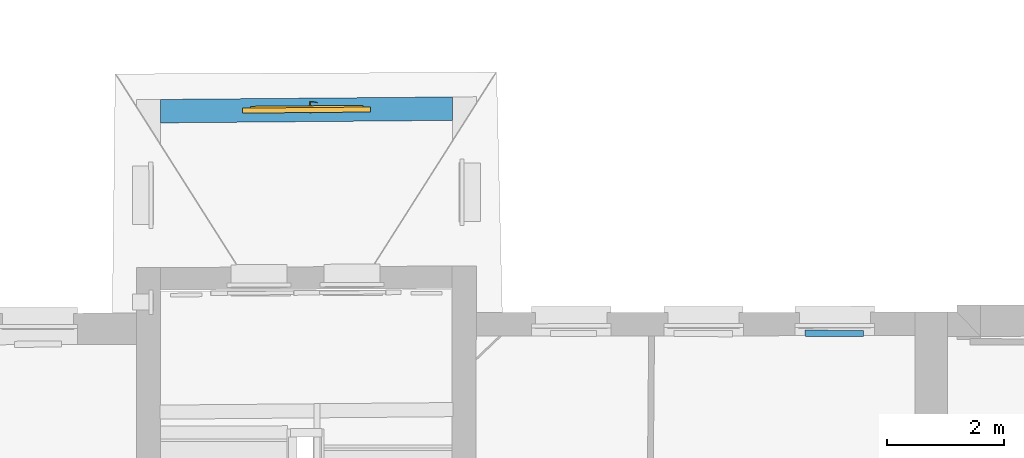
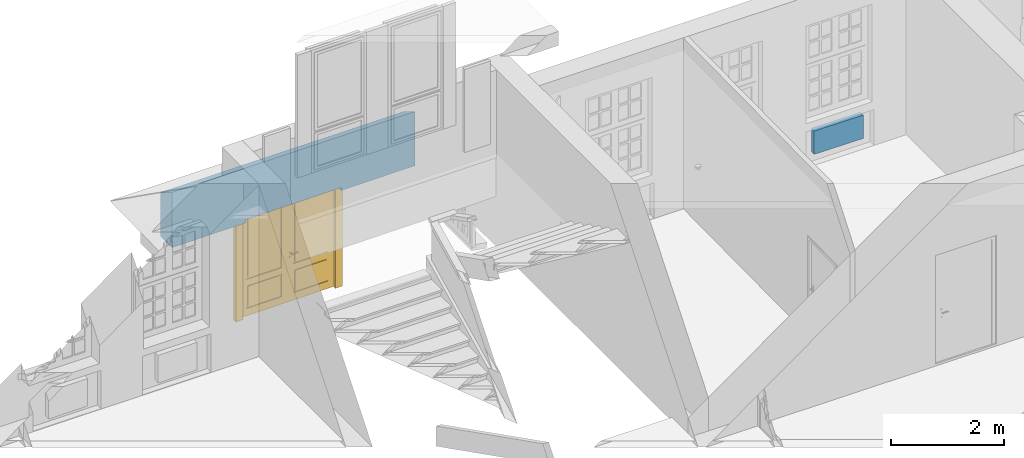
# One storey, part 38 of 158: 2 walls, 1 door, 1 opening.
"""IFC2X3 building model written with IfcOpenShell, lengths in metres."""

from ifc_helpers import new_model, entity, si_unit, converted_unit, derived_unit, money_unit, direction, frame, origin_with_axes, origin_2d_with_axis, place, context, subcontext, project, spatial, polyline, rectangle, outline, extrude, boolean, open_shell, faceted_brep, surface_model, source, transform, mapped, material, layer, layer_set, layer_usage, type_object, element, fill, save


model = new_model("IFC2X3")

# Units and contexts
model_context = context("Model", 3, precision=1e-05, world=origin_with_axes(), true_north=direction((0.0, 1.0)))
body_context = subcontext(model_context, "Body", "Model", "MODEL_VIEW")
ifc_project = project(units=[si_unit("LENGTHUNIT", "METRE"), si_unit("AREAUNIT", "SQUARE_METRE"), si_unit("VOLUMEUNIT", "CUBIC_METRE"), converted_unit("PLANEANGLEUNIT", "DEGREE", entity("IfcPlaneAngleMeasure", 0.0174532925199), si_unit("PLANEANGLEUNIT", "RADIAN"), dimensions=[0, 0, 0, 0, 0, 0, 0]), money_unit("EUR"), converted_unit("TIMEUNIT", "Year", entity("IfcTimeMeasure", 31556926.0), si_unit("TIMEUNIT", "SECOND"), dimensions=[0, 0, 1, 0, 0, 0, 0]), si_unit("MASSUNIT", "GRAM", prefix="KILO"), si_unit("THERMODYNAMICTEMPERATUREUNIT", "DEGREE_CELSIUS"), si_unit("LUMINOUSINTENSITYUNIT", "LUMEN"), si_unit("ENERGYUNIT", "JOULE", prefix="MEGA"), derived_unit("THERMALCONDUCTANCEUNIT", [(si_unit("POWERUNIT", "WATT"), 1), (si_unit("LENGTHUNIT", "METRE"), -1), (si_unit("THERMODYNAMICTEMPERATUREUNIT", "KELVIN"), -1)]), derived_unit("SPECIFICHEATCAPACITYUNIT", [(si_unit("ENERGYUNIT", "JOULE"), 1), (si_unit("MASSUNIT", "GRAM", prefix="KILO"), -1), (si_unit("THERMODYNAMICTEMPERATUREUNIT", "KELVIN"), -1)]), derived_unit("MASSDENSITYUNIT", [(si_unit("MASSUNIT", "GRAM", prefix="KILO"), 1), (si_unit("VOLUMEUNIT", "CUBIC_METRE"), -1)])], contexts=[model_context])

# Site, building, storey
site_placement = place(None, origin_with_axes())
site = spatial("IfcSite", under=ifc_project, at=site_placement, Name="Gelände", CompositionType="ELEMENT")
building_placement = place(site_placement, origin_with_axes())
building = spatial("IfcBuilding", under=site, at=building_placement, Name="Gebäude", CompositionType="ELEMENT")
storey_placement = place(building_placement, origin_with_axes())
storey = spatial("IfcBuildingStorey", under=building, at=storey_placement, Name="ERDGESCHOSS", CompositionType="ELEMENT", Elevation=0.0)

# Wall, opening, door
ifc_material_1 = material(Name="05_ALLGEMEIN - TRAGENDE BAUTEILE")
wall_type_1 = type_object("IfcWallType", Name="05_ALLGEMEIN - TRAGENDE BAUTEILE 400", PredefinedType="ELEMENTEDWALL")
wall_1_placement = place(storey_placement, frame((-4.46072378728, 29.7419939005, -0.21), z_axis=(0.0, 0.0, 1.0), x_axis=(-0.999963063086, -0.00859490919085, 0.0)))
wall_1 = element("IfcWall", 1, at=wall_1_placement, inside=storey, type_object=wall_type_1, material=ifc_material_1, Name="Wand-029", ObjectType="ELEMENTEDWALL", context=body_context, shape_type="CSG", body=[
    boolean("DIFFERENCE", extrude(outline(polyline([(0.0, 0.0), (5.79535307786, 0.0), (5.79535307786, 0.4), (0.0, 0.4), (0.0, 0.0)])), origin_with_axes(), (0.0, 0.0, 1.0), 3.15), faceted_brep([(5.38193782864, 0.0, 0.949723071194), (5.38193782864, 0.0, 0.0), (5.79535307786, 0.0, 0.0), (5.79535307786, 0.0, 3.15), (0.0, 0.0, 3.15), (0.0, 0.0, 0.0), (0.410016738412, 0.0, 0.0), (0.410016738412, 0.0, 0.924372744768), (5.38533826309, 0.4, 1.19053185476), (5.38533826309, 0.4, 0.0), (5.79535307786, 0.4, 0.0), (5.79535307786, 0.4, 3.15), (0.0, 0.4, 3.15), (0.0, 0.4, 0.0), (0.413631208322, 0.4, 0.0), (0.413631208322, 0.4, 1.16518261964)], [[[0, 1, 2, 3, 4, 5, 6, 7]], [[8, 9, 1, 0]], [[1, 9, 10, 2]], [[3, 2, 10, 11]], [[12, 4, 3, 11]], [[12, 13, 5, 4]], [[14, 6, 5, 13]], [[7, 6, 14, 15]], [[0, 7, 15, 8]], [[15, 14, 13, 12, 11, 10, 9, 8]]])),
])
opening_placement = place(wall_1_placement, frame((2.89525343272, 0.0, -2.19), z_axis=(0.0, 0.0, 1.0), x_axis=(1.0, 0.0, 0.0)))
opening = element("IfcOpeningElement", 2, at=opening_placement, cuts=wall_1, Name="Tür-023", context=body_context, shape_type="SweptSolid", body=[
    extrude(rectangle(XDim=2.17837008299, YDim=2.38809052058, at=origin_2d_with_axis()), frame((0.0, 0.16, 1.19404526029), z_axis=(0.0, 1.0, 0.0), x_axis=(-1.0, 0.0, 0.0)), (0.0, 0.0, -1.0), 0.56),
    extrude(rectangle(XDim=1.95837008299, YDim=2.25809052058, at=origin_2d_with_axis()), frame((0.0, 0.245, 1.12904526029), z_axis=(0.0, -1.0, 0.0), x_axis=(-1.0, 0.0, 0.0)), (0.0, 0.0, -1.0), 0.555),
    extrude(rectangle(XDim=2.17837008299, YDim=2.38809052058, at=origin_2d_with_axis()), frame((0.0, 0.16, 1.19404526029), z_axis=(0.0, 1.0, 0.0), x_axis=(-1.0, 0.0, 0.0)), (0.0, 0.0, 1.0), 0.085),
])
door_style = type_object("IfcDoorStyle", Name="Blockrahmentür 2-Fl 25", ConstructionType="NOTDEFINED", OperationType="DOUBLE_DOOR_SINGLE_SWING", ParameterTakesPrecedence=False, Sizeable=False)
shared_shape = source(origin_with_axes(), body_context, "Body", "SurfaceModel", [
    faceted_brep([(1.0891850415, -0.085, 0.0), (1.0891850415, -0.048, 0.0), (1.0891850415, -0.048, 2.38809052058), (1.0891850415, -0.085, 2.38809052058), (0.944185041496, -0.085, 0.0), (0.944185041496, -0.048, 0.0), (0.944185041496, -0.048, 2.24309052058), (0.1151, -0.048, 2.24309052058), (0.0001, -0.048, 2.24309052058), (-0.944185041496, -0.048, 2.24309052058), (-0.944185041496, -0.048, 0.0), (-1.0891850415, -0.048, 0.0), (-1.0891850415, -0.048, 2.38809052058), (-1.0891850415, -0.085, 2.38809052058), (-1.0891850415, -0.085, 0.0), (-0.944185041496, -0.085, 0.0), (-0.944185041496, -0.085, 2.24309052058), (0.0001, -0.085, 2.24309052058), (0.1151, -0.085, 2.24309052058), (0.944185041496, -0.085, 2.24309052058)], [[[0, 1, 2, 3]], [[4, 5, 1, 0]], [[1, 5, 6, 7, 8, 9, 10, 11, 12, 2]], [[3, 2, 12, 13]], [[0, 3, 13, 14, 15, 16, 17, 18, 19, 4]], [[19, 6, 5, 4]], [[18, 7, 6, 19]], [[17, 8, 7, 18]], [[16, 9, 8, 17]], [[15, 10, 9, 16]], [[14, 11, 10, 15]], [[13, 12, 11, 14]]]),
    faceted_brep([(1.0891850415, -0.048, 0.0), (1.0891850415, 0.0, 0.0), (1.0891850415, 0.0, 2.38809052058), (1.0891850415, -0.048, 2.38809052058), (0.959185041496, -0.048, 0.0), (0.959185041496, 0.0, 0.0), (0.959185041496, 0.0, 2.25809052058), (0.1001, 0.0, 2.25809052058), (0.0151, 0.0, 2.25809052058), (-0.959185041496, 0.0, 2.25809052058), (-0.959185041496, 0.0, 0.0), (-1.0891850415, 0.0, 0.0), (-1.0891850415, 0.0, 2.38809052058), (-1.0891850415, -0.048, 2.38809052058), (-1.0891850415, -0.048, 0.0), (-0.959185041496, -0.048, 0.0), (-0.959185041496, -0.048, 2.25809052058), (0.0151, -0.048, 2.25809052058), (0.1001, -0.048, 2.25809052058), (0.959185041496, -0.048, 2.25809052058)], [[[0, 1, 2, 3]], [[4, 5, 1, 0]], [[1, 5, 6, 7, 8, 9, 10, 11, 12, 2]], [[3, 2, 12, 13]], [[0, 3, 13, 14, 15, 16, 17, 18, 19, 4]], [[19, 6, 5, 4]], [[18, 7, 6, 19]], [[17, 8, 7, 18]], [[16, 9, 8, 17]], [[15, 10, 9, 16]], [[14, 11, 10, 15]], [[13, 12, 11, 14]]]),
    faceted_brep([(0.0005, 0.03, 0.0), (0.959185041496, 0.03, 0.0), (0.959185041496, -0.018, 0.0), (0.0005, -0.018, 0.0), (0.0005, 0.03, 2.25809052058), (0.959185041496, 0.03, 2.25809052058), (0.1205, 0.03, 0.16), (0.839185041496, 0.03, 0.16), (0.839185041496, 0.03, 0.665), (0.1205, 0.03, 0.665), (0.1205, 0.03, 0.785), (0.839185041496, 0.03, 0.785), (0.839185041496, 0.03, 2.13809052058), (0.1205, 0.03, 2.13809052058), (0.959185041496, -0.018, 2.25809052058), (0.0005, -0.018, 2.25809052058), (0.1205, -0.018, 0.16), (0.1205, -0.018, 0.665), (0.839185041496, -0.018, 0.665), (0.839185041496, -0.018, 0.16), (0.1205, -0.018, 0.785), (0.1205, -0.018, 2.13809052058), (0.839185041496, -0.018, 2.13809052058), (0.839185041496, -0.018, 0.785)], [[[0, 1, 2, 3]], [[0, 4, 5, 1], [6, 7, 8, 9], [10, 11, 12, 13]], [[1, 5, 14, 2]], [[3, 2, 14, 15], [16, 17, 18, 19], [20, 21, 22, 23]], [[4, 0, 3, 15]], [[5, 4, 15, 14]], [[7, 6, 16, 19]], [[8, 7, 19, 18]], [[9, 8, 18, 17]], [[6, 9, 17, 16]], [[11, 10, 20, 23]], [[12, 11, 23, 22]], [[13, 12, 22, 21]], [[10, 13, 21, 20]]]),
    faceted_brep([(0.1555, 0.03, 0.195), (0.804185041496, 0.03, 0.195), (0.804185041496, -0.018, 0.195), (0.1555, -0.018, 0.195), (0.1555, 0.03, 0.63), (0.804185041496, 0.03, 0.63), (0.804185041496, -0.018, 0.63), (0.1555, -0.018, 0.63)], [[[0, 1, 2, 3]], [[0, 4, 5, 1]], [[1, 5, 6, 2]], [[3, 2, 6, 7]], [[4, 0, 3, 7]], [[5, 4, 7, 6]]]),
    faceted_brep([(0.1555, 0.03, 0.82), (0.804185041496, 0.03, 0.82), (0.804185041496, -0.018, 0.82), (0.1555, -0.018, 0.82), (0.1555, 0.03, 2.10309052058), (0.804185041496, 0.03, 2.10309052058), (0.804185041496, -0.018, 2.10309052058), (0.1555, -0.018, 2.10309052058)], [[[0, 1, 2, 3]], [[0, 4, 5, 1]], [[1, 5, 6, 2]], [[3, 2, 6, 7]], [[4, 0, 3, 7]], [[5, 4, 7, 6]]]),
    faceted_brep([(0.1205, 0.0175, 0.16), (0.839185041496, 0.0175, 0.16), (0.839185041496, -0.0055, 0.16), (0.1205, -0.0055, 0.16), (0.1205, 0.0175, 0.665), (0.839185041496, 0.0175, 0.665), (0.1555, 0.0175, 0.195), (0.804185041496, 0.0175, 0.195), (0.804185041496, 0.0175, 0.63), (0.1555, 0.0175, 0.63), (0.839185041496, -0.0055, 0.665), (0.1205, -0.0055, 0.665), (0.1555, -0.0055, 0.195), (0.1555, -0.0055, 0.63), (0.804185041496, -0.0055, 0.63), (0.804185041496, -0.0055, 0.195)], [[[0, 1, 2, 3]], [[0, 4, 5, 1], [6, 7, 8, 9]], [[1, 5, 10, 2]], [[3, 2, 10, 11], [12, 13, 14, 15]], [[4, 0, 3, 11]], [[5, 4, 11, 10]], [[7, 6, 12, 15]], [[8, 7, 15, 14]], [[9, 8, 14, 13]], [[6, 9, 13, 12]]]),
    faceted_brep([(0.1205, 0.0175, 0.785), (0.839185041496, 0.0175, 0.785), (0.839185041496, -0.0055, 0.785), (0.1205, -0.0055, 0.785), (0.1205, 0.0175, 2.13809052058), (0.839185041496, 0.0175, 2.13809052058), (0.1555, 0.0175, 0.82), (0.804185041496, 0.0175, 0.82), (0.804185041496, 0.0175, 2.10309052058), (0.1555, 0.0175, 2.10309052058), (0.839185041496, -0.0055, 2.13809052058), (0.1205, -0.0055, 2.13809052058), (0.1555, -0.0055, 0.82), (0.1555, -0.0055, 2.10309052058), (0.804185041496, -0.0055, 2.10309052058), (0.804185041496, -0.0055, 0.82)], [[[0, 1, 2, 3]], [[0, 4, 5, 1], [6, 7, 8, 9]], [[1, 5, 10, 2]], [[3, 2, 10, 11], [12, 13, 14, 15]], [[4, 0, 3, 11]], [[5, 4, 11, 10]], [[7, 6, 12, 15]], [[8, 7, 15, 14]], [[9, 8, 14, 13]], [[6, 9, 13, 12]]]),
    faceted_brep([(0.032, -0.018, 1.11), (0.032, -0.021, 1.11), (0.089, -0.021, 1.11), (0.089, -0.018, 1.11), (0.032, -0.018, 0.92), (0.032, -0.021, 0.92), (0.089, -0.021, 0.92), (0.089, -0.018, 0.92)], [[[0, 1, 2, 3]], [[4, 5, 1, 0]], [[1, 5, 6, 2]], [[3, 2, 6, 7]], [[0, 3, 7, 4]], [[7, 6, 5, 4]]]),
    faceted_brep([(0.0605, -0.082, 1.04), (0.0605, -0.089, 1.04), (0.0555, -0.089, 1.04133974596), (0.0555, -0.082, 1.04133974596), (0.0855, -0.082, 1.04), (0.0855, -0.089, 1.04), (0.0855, -0.089, 1.06), (0.0605, -0.089, 1.06), (0.0555, -0.089, 1.05866025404), (0.0518397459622, -0.089, 1.055), (0.0505, -0.089, 1.05), (0.0518397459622, -0.089, 1.045), (0.0518397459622, -0.082, 1.045), (0.0505, -0.082, 1.05), (0.0518397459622, -0.082, 1.055), (0.0555, -0.082, 1.05866025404), (0.0605, -0.082, 1.06), (0.0855, -0.082, 1.06)], [[[0, 1, 2, 3]], [[4, 5, 1, 0]], [[1, 5, 6, 7, 8, 9, 10, 11, 2]], [[3, 2, 11, 12]], [[0, 3, 12, 13, 14, 15, 16, 17, 4]], [[17, 6, 5, 4]], [[16, 7, 6, 17]], [[15, 8, 7, 16]], [[14, 9, 8, 15]], [[13, 10, 9, 14]], [[12, 11, 10, 13]]]),
    surface_model("IfcShellBasedSurfaceModel", [(0.0855, -0.082, 1.06), (0.0989039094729, -0.089, 1.05960730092), (0.0985982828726, -0.082, 1.05960730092), (0.0855, -0.089, 1.06), (0.125609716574, -0.0866635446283, 1.05882190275), (0.0985982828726, -0.082, 1.04039269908), (0.0855, -0.082, 1.04), (0.0855, -0.089, 1.04), (0.0989039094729, -0.089, 1.04039269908), (0.125609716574, -0.0866635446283, 1.04117809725), (0.124695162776, -0.079716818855, 1.05882190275), (0.124695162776, -0.079716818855, 1.04117809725), (0.152010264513, -0.0820084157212, 1.04196349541), (0.152010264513, -0.0820084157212, 1.05803650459), (0.150493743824, -0.0751678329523, 1.05803650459), (0.150493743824, -0.0751678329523, 1.04196349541), (0.17790462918, -0.0750700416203, 1.04274889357), (0.17790462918, -0.0750700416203, 1.05725110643), (0.175797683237, -0.0683876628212, 1.05725110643), (0.175797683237, -0.0683876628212, 1.04274889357), (0.185961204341, -0.0721376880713, 1.043), (0.185961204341, -0.0721376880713, 1.057), (0.183670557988, -0.0655221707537, 1.057), (0.183670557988, -0.0655221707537, 1.043)], [open_shell([[[0, 1, 2]], [[0, 3, 1]], [[2, 1, 4]], [[0, 2, 5, 6]], [[3, 7, 8, 1]], [[1, 8, 9, 4]], [[2, 4, 10]], [[2, 10, 11, 5]], [[5, 7, 6]], [[5, 8, 7]], [[11, 9, 8]], [[4, 9, 12, 13]], [[10, 4, 13]], [[10, 14, 15, 11]], [[11, 8, 5]], [[15, 9, 11]], [[15, 12, 9]], [[13, 12, 16, 17]], [[10, 13, 14]], [[14, 18, 19, 15]], [[19, 12, 15]], [[19, 16, 12]], [[17, 16, 20, 21]], [[14, 13, 17]], [[14, 17, 18]], [[18, 22, 23, 19]], [[23, 16, 19]], [[23, 20, 16]], [[22, 21, 20, 23]], [[18, 17, 21]], [[18, 21, 22]]])]),
    faceted_brep([(0.0708923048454, -0.031, 1.044), (0.0717583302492, -0.021, 1.0435), (0.0735, -0.021, 1.05), (0.0725, -0.031, 1.05), (0.0665, -0.031, 1.03960769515), (0.067, -0.021, 1.03874166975), (0.0605, -0.021, 1.037), (0.054, -0.021, 1.03874166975), (0.0492416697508, -0.021, 1.0435), (0.0475, -0.021, 1.05), (0.0492416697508, -0.021, 1.0565), (0.054, -0.021, 1.06125833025), (0.0605, -0.021, 1.063), (0.067, -0.021, 1.06125833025), (0.0717583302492, -0.021, 1.0565), (0.0708923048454, -0.031, 1.056), (0.0665, -0.031, 1.06039230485), (0.0605, -0.031, 1.062), (0.0545, -0.031, 1.06039230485), (0.0501076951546, -0.031, 1.056), (0.0485, -0.031, 1.05), (0.0501076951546, -0.031, 1.044), (0.0545, -0.031, 1.03960769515), (0.0605, -0.031, 1.038)], [[[0, 1, 2, 3]], [[4, 5, 1, 0]], [[2, 1, 5, 6, 7, 8, 9, 10, 11, 12, 13, 14]], [[3, 2, 14, 15]], [[3, 15, 16, 17, 18, 19, 20, 21, 22, 23, 4, 0]], [[23, 6, 5, 4]], [[22, 7, 6, 23]], [[21, 8, 7, 22]], [[20, 9, 8, 21]], [[19, 10, 9, 20]], [[18, 11, 10, 19]], [[17, 12, 11, 18]], [[16, 13, 12, 17]], [[15, 14, 13, 16]]]),
    faceted_brep([(0.0778205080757, -0.025, 0.945), (0.0795525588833, -0.021, 0.944), (0.0825, -0.021, 0.955), (0.0805, -0.025, 0.955), (0.0705, -0.025, 0.937679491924), (0.0715, -0.021, 0.935947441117), (0.0605, -0.021, 0.933), (0.0495, -0.021, 0.935947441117), (0.0414474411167, -0.021, 0.944), (0.0385, -0.021, 0.955), (0.0414474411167, -0.021, 0.966), (0.0495, -0.021, 0.974052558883), (0.0605, -0.021, 0.977), (0.0715, -0.021, 0.974052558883), (0.0795525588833, -0.021, 0.966), (0.0778205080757, -0.025, 0.965), (0.0705, -0.025, 0.972320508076), (0.0605, -0.025, 0.975), (0.0505, -0.025, 0.972320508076), (0.0431794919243, -0.025, 0.965), (0.0405, -0.025, 0.955), (0.0431794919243, -0.025, 0.945), (0.0505, -0.025, 0.937679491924), (0.0605, -0.025, 0.935)], [[[0, 1, 2, 3]], [[4, 5, 1, 0]], [[2, 1, 5, 6, 7, 8, 9, 10, 11, 12, 13, 14]], [[3, 2, 14, 15]], [[3, 15, 16, 17, 18, 19, 20, 21, 22, 23, 4, 0]], [[23, 6, 5, 4]], [[22, 7, 6, 23]], [[21, 8, 7, 22]], [[20, 9, 8, 21]], [[19, 10, 9, 20]], [[18, 11, 10, 19]], [[17, 12, 11, 18]], [[16, 13, 12, 17]], [[15, 14, 13, 16]]]),
    faceted_brep([(0.0654497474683, -0.027, 0.959050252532), (0.0661568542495, -0.025, 0.958343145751), (0.0685, -0.025, 0.964), (0.0675, -0.027, 0.964), (0.0605, -0.027, 0.957), (0.0605, -0.025, 0.956), (0.0548431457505, -0.025, 0.958343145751), (0.0525, -0.025, 0.964), (0.0548431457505, -0.025, 0.969656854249), (0.0605, -0.025, 0.972), (0.0661568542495, -0.025, 0.969656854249), (0.0654497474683, -0.027, 0.968949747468), (0.0605, -0.027, 0.971), (0.0555502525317, -0.027, 0.968949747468), (0.0535, -0.027, 0.964), (0.0555502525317, -0.027, 0.959050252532)], [[[0, 1, 2, 3]], [[4, 5, 1, 0]], [[2, 1, 5, 6, 7, 8, 9, 10]], [[3, 2, 10, 11]], [[3, 11, 12, 13, 14, 15, 4, 0]], [[15, 6, 5, 4]], [[14, 7, 6, 15]], [[13, 8, 7, 14]], [[12, 9, 8, 13]], [[11, 10, 9, 12]]]),
    faceted_brep([(0.0605, -0.031, 1.06), (0.0605, -0.082, 1.06), (0.0655, -0.082, 1.05866025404), (0.0655, -0.031, 1.05866025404), (0.0555, -0.031, 1.05866025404), (0.0555, -0.082, 1.05866025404), (0.0518397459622, -0.082, 1.055), (0.0505, -0.082, 1.05), (0.0518397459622, -0.082, 1.045), (0.0555, -0.082, 1.04133974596), (0.0605, -0.082, 1.04), (0.0655, -0.082, 1.04133974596), (0.0691602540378, -0.082, 1.045), (0.0705, -0.082, 1.05), (0.0691602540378, -0.082, 1.055), (0.0691602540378, -0.031, 1.055), (0.0705, -0.031, 1.05), (0.0691602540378, -0.031, 1.045), (0.0655, -0.031, 1.04133974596), (0.0605, -0.031, 1.04), (0.0555, -0.031, 1.04133974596), (0.0518397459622, -0.031, 1.045), (0.0505, -0.031, 1.05), (0.0518397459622, -0.031, 1.055)], [[[0, 1, 2, 3]], [[4, 5, 1, 0]], [[1, 5, 6, 7, 8, 9, 10, 11, 12, 13, 14, 2]], [[3, 2, 14, 15]], [[0, 3, 15, 16, 17, 18, 19, 20, 21, 22, 23, 4]], [[23, 6, 5, 4]], [[22, 7, 6, 23]], [[21, 8, 7, 22]], [[20, 9, 8, 21]], [[19, 10, 9, 20]], [[18, 11, 10, 19]], [[17, 12, 11, 18]], [[16, 13, 12, 17]], [[15, 14, 13, 16]]]),
    faceted_brep([(0.032, 0.03, 1.11), (0.089, 0.03, 1.11), (0.089, 0.033, 1.11), (0.032, 0.033, 1.11), (0.032, 0.03, 0.92), (0.089, 0.03, 0.92), (0.089, 0.033, 0.92), (0.032, 0.033, 0.92)], [[[0, 1, 2, 3]], [[0, 4, 5, 1]], [[1, 5, 6, 2]], [[3, 2, 6, 7]], [[4, 0, 3, 7]], [[5, 4, 7, 6]]]),
    faceted_brep([(0.0605, 0.094, 1.04), (0.0555, 0.094, 1.04133974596), (0.0555, 0.101, 1.04133974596), (0.0605, 0.101, 1.04), (0.0855, 0.094, 1.04), (0.0855, 0.094, 1.06), (0.0605, 0.094, 1.06), (0.0555, 0.094, 1.05866025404), (0.0518397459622, 0.094, 1.055), (0.0505, 0.094, 1.05), (0.0518397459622, 0.094, 1.045), (0.0518397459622, 0.101, 1.045), (0.0505, 0.101, 1.05), (0.0518397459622, 0.101, 1.055), (0.0555, 0.101, 1.05866025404), (0.0605, 0.101, 1.06), (0.0855, 0.101, 1.06), (0.0855, 0.101, 1.04)], [[[0, 1, 2, 3]], [[0, 4, 5, 6, 7, 8, 9, 10, 1]], [[1, 10, 11, 2]], [[3, 2, 11, 12, 13, 14, 15, 16, 17]], [[4, 0, 3, 17]], [[5, 4, 17, 16]], [[6, 5, 16, 15]], [[7, 6, 15, 14]], [[8, 7, 14, 13]], [[9, 8, 13, 12]], [[10, 9, 12, 11]]]),
    surface_model("IfcShellBasedSurfaceModel", [(0.0855, 0.094, 1.06), (0.0985982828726, 0.094, 1.05960730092), (0.0989039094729, 0.101, 1.05960730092), (0.0855, 0.094, 1.04), (0.0985982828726, 0.094, 1.04039269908), (0.125609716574, 0.0986635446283, 1.05882190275), (0.0855, 0.101, 1.06), (0.0855, 0.101, 1.04), (0.124695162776, 0.091716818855, 1.04117809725), (0.124695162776, 0.091716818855, 1.05882190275), (0.125609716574, 0.0986635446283, 1.04117809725), (0.0989039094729, 0.101, 1.04039269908), (0.150493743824, 0.0871678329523, 1.04196349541), (0.150493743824, 0.0871678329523, 1.05803650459), (0.152010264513, 0.0940084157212, 1.05803650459), (0.152010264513, 0.0940084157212, 1.04196349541), (0.175797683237, 0.0803876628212, 1.04274889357), (0.175797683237, 0.0803876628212, 1.05725110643), (0.17790462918, 0.0870700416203, 1.05725110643), (0.17790462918, 0.0870700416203, 1.04274889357), (0.183670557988, 0.0775221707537, 1.043), (0.183670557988, 0.0775221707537, 1.057), (0.185961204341, 0.0841376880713, 1.057), (0.185961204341, 0.0841376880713, 1.043)], [open_shell([[[0, 1, 2]], [[0, 3, 4, 1]], [[1, 5, 2]], [[0, 2, 6]], [[4, 3, 7]], [[1, 4, 8, 9]], [[1, 9, 5]], [[2, 5, 10, 11]], [[6, 2, 11, 7]], [[4, 7, 11]], [[8, 4, 11]], [[9, 8, 12, 13]], [[9, 14, 5]], [[5, 14, 15, 10]], [[8, 11, 10]], [[12, 8, 10]], [[13, 12, 16, 17]], [[9, 13, 14]], [[14, 18, 19, 15]], [[12, 10, 15]], [[16, 12, 15]], [[17, 16, 20, 21]], [[13, 17, 18]], [[13, 18, 14]], [[18, 22, 23, 19]], [[16, 15, 19]], [[20, 16, 19]], [[21, 20, 23, 22]], [[17, 21, 22]], [[17, 22, 18]], [[20, 19, 23]]])]),
    faceted_brep([(0.0708923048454, 0.043, 1.044), (0.0725, 0.043, 1.05), (0.0735, 0.033, 1.05), (0.0717583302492, 0.033, 1.0435), (0.0665, 0.043, 1.03960769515), (0.0605, 0.043, 1.038), (0.0545, 0.043, 1.03960769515), (0.0501076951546, 0.043, 1.044), (0.0485, 0.043, 1.05), (0.0501076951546, 0.043, 1.056), (0.0545, 0.043, 1.06039230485), (0.0605, 0.043, 1.062), (0.0665, 0.043, 1.06039230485), (0.0708923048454, 0.043, 1.056), (0.0717583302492, 0.033, 1.0565), (0.067, 0.033, 1.06125833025), (0.0605, 0.033, 1.063), (0.054, 0.033, 1.06125833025), (0.0492416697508, 0.033, 1.0565), (0.0475, 0.033, 1.05), (0.0492416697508, 0.033, 1.0435), (0.054, 0.033, 1.03874166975), (0.0605, 0.033, 1.037), (0.067, 0.033, 1.03874166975)], [[[0, 1, 2, 3]], [[1, 0, 4, 5, 6, 7, 8, 9, 10, 11, 12, 13]], [[1, 13, 14, 2]], [[2, 14, 15, 16, 17, 18, 19, 20, 21, 22, 23, 3]], [[4, 0, 3, 23]], [[5, 4, 23, 22]], [[6, 5, 22, 21]], [[7, 6, 21, 20]], [[8, 7, 20, 19]], [[9, 8, 19, 18]], [[10, 9, 18, 17]], [[11, 10, 17, 16]], [[12, 11, 16, 15]], [[13, 12, 15, 14]]]),
    faceted_brep([(0.0778205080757, 0.037, 0.945), (0.0805, 0.037, 0.955), (0.0825, 0.033, 0.955), (0.0795525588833, 0.033, 0.944), (0.0705, 0.037, 0.937679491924), (0.0605, 0.037, 0.935), (0.0505, 0.037, 0.937679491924), (0.0431794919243, 0.037, 0.945), (0.0405, 0.037, 0.955), (0.0431794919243, 0.037, 0.965), (0.0505, 0.037, 0.972320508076), (0.0605, 0.037, 0.975), (0.0705, 0.037, 0.972320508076), (0.0778205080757, 0.037, 0.965), (0.0795525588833, 0.033, 0.966), (0.0715, 0.033, 0.974052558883), (0.0605, 0.033, 0.977), (0.0495, 0.033, 0.974052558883), (0.0414474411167, 0.033, 0.966), (0.0385, 0.033, 0.955), (0.0414474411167, 0.033, 0.944), (0.0495, 0.033, 0.935947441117), (0.0605, 0.033, 0.933), (0.0715, 0.033, 0.935947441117)], [[[0, 1, 2, 3]], [[1, 0, 4, 5, 6, 7, 8, 9, 10, 11, 12, 13]], [[1, 13, 14, 2]], [[2, 14, 15, 16, 17, 18, 19, 20, 21, 22, 23, 3]], [[4, 0, 3, 23]], [[5, 4, 23, 22]], [[6, 5, 22, 21]], [[7, 6, 21, 20]], [[8, 7, 20, 19]], [[9, 8, 19, 18]], [[10, 9, 18, 17]], [[11, 10, 17, 16]], [[12, 11, 16, 15]], [[13, 12, 15, 14]]]),
    faceted_brep([(0.0654497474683, 0.039, 0.959050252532), (0.0675, 0.039, 0.964), (0.0685, 0.037, 0.964), (0.0661568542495, 0.037, 0.958343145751), (0.0605, 0.039, 0.957), (0.0555502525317, 0.039, 0.959050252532), (0.0535, 0.039, 0.964), (0.0555502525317, 0.039, 0.968949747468), (0.0605, 0.039, 0.971), (0.0654497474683, 0.039, 0.968949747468), (0.0661568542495, 0.037, 0.969656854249), (0.0605, 0.037, 0.972), (0.0548431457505, 0.037, 0.969656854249), (0.0525, 0.037, 0.964), (0.0548431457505, 0.037, 0.958343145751), (0.0605, 0.037, 0.956)], [[[0, 1, 2, 3]], [[1, 0, 4, 5, 6, 7, 8, 9]], [[1, 9, 10, 2]], [[2, 10, 11, 12, 13, 14, 15, 3]], [[4, 0, 3, 15]], [[5, 4, 15, 14]], [[6, 5, 14, 13]], [[7, 6, 13, 12]], [[8, 7, 12, 11]], [[9, 8, 11, 10]]]),
    faceted_brep([(0.0605, 0.043, 1.06), (0.0655, 0.043, 1.05866025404), (0.0655, 0.094, 1.05866025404), (0.0605, 0.094, 1.06), (0.0555, 0.043, 1.05866025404), (0.0518397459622, 0.043, 1.055), (0.0505, 0.043, 1.05), (0.0518397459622, 0.043, 1.045), (0.0555, 0.043, 1.04133974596), (0.0605, 0.043, 1.04), (0.0655, 0.043, 1.04133974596), (0.0691602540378, 0.043, 1.045), (0.0705, 0.043, 1.05), (0.0691602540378, 0.043, 1.055), (0.0691602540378, 0.094, 1.055), (0.0705, 0.094, 1.05), (0.0691602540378, 0.094, 1.045), (0.0655, 0.094, 1.04133974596), (0.0605, 0.094, 1.04), (0.0555, 0.094, 1.04133974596), (0.0518397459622, 0.094, 1.045), (0.0505, 0.094, 1.05), (0.0518397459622, 0.094, 1.055), (0.0555, 0.094, 1.05866025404)], [[[0, 1, 2, 3]], [[0, 4, 5, 6, 7, 8, 9, 10, 11, 12, 13, 1]], [[1, 13, 14, 2]], [[3, 2, 14, 15, 16, 17, 18, 19, 20, 21, 22, 23]], [[4, 0, 3, 23]], [[5, 4, 23, 22]], [[6, 5, 22, 21]], [[7, 6, 21, 20]], [[8, 7, 20, 19]], [[9, 8, 19, 18]], [[10, 9, 18, 17]], [[11, 10, 17, 16]], [[12, 11, 16, 15]], [[13, 12, 15, 14]]]),
    faceted_brep([(-0.0005, 0.03, 0.0), (-0.0005, -0.018, 0.0), (-0.959185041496, -0.018, 0.0), (-0.959185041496, 0.03, 0.0), (-0.0005, 0.03, 2.25809052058), (-0.0005, -0.018, 2.25809052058), (-0.959185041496, -0.018, 2.25809052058), (-0.1205, -0.018, 0.16), (-0.839185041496, -0.018, 0.16), (-0.839185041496, -0.018, 0.665), (-0.1205, -0.018, 0.665), (-0.1205, -0.018, 0.785), (-0.839185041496, -0.018, 0.785), (-0.839185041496, -0.018, 2.13809052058), (-0.1205, -0.018, 2.13809052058), (-0.959185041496, 0.03, 2.25809052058), (-0.1205, 0.03, 0.16), (-0.1205, 0.03, 0.665), (-0.839185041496, 0.03, 0.665), (-0.839185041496, 0.03, 0.16), (-0.1205, 0.03, 0.785), (-0.1205, 0.03, 2.13809052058), (-0.839185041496, 0.03, 2.13809052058), (-0.839185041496, 0.03, 0.785)], [[[0, 1, 2, 3]], [[4, 5, 1, 0]], [[1, 5, 6, 2], [7, 8, 9, 10], [11, 12, 13, 14]], [[3, 2, 6, 15]], [[0, 3, 15, 4], [16, 17, 18, 19], [20, 21, 22, 23]], [[15, 6, 5, 4]], [[19, 8, 7, 16]], [[18, 9, 8, 19]], [[17, 10, 9, 18]], [[16, 7, 10, 17]], [[23, 12, 11, 20]], [[22, 13, 12, 23]], [[21, 14, 13, 22]], [[20, 11, 14, 21]]]),
    faceted_brep([(-0.1555, 0.03, 0.195), (-0.1555, -0.018, 0.195), (-0.804185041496, -0.018, 0.195), (-0.804185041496, 0.03, 0.195), (-0.1555, 0.03, 0.63), (-0.1555, -0.018, 0.63), (-0.804185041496, -0.018, 0.63), (-0.804185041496, 0.03, 0.63)], [[[0, 1, 2, 3]], [[4, 5, 1, 0]], [[1, 5, 6, 2]], [[3, 2, 6, 7]], [[0, 3, 7, 4]], [[7, 6, 5, 4]]]),
    faceted_brep([(-0.1555, 0.03, 0.82), (-0.1555, -0.018, 0.82), (-0.804185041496, -0.018, 0.82), (-0.804185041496, 0.03, 0.82), (-0.1555, 0.03, 2.10309052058), (-0.1555, -0.018, 2.10309052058), (-0.804185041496, -0.018, 2.10309052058), (-0.804185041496, 0.03, 2.10309052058)], [[[0, 1, 2, 3]], [[4, 5, 1, 0]], [[1, 5, 6, 2]], [[3, 2, 6, 7]], [[0, 3, 7, 4]], [[7, 6, 5, 4]]]),
    faceted_brep([(-0.1205, 0.0175, 0.16), (-0.1205, -0.0055, 0.16), (-0.839185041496, -0.0055, 0.16), (-0.839185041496, 0.0175, 0.16), (-0.1205, 0.0175, 0.665), (-0.1205, -0.0055, 0.665), (-0.839185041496, -0.0055, 0.665), (-0.1555, -0.0055, 0.195), (-0.804185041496, -0.0055, 0.195), (-0.804185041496, -0.0055, 0.63), (-0.1555, -0.0055, 0.63), (-0.839185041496, 0.0175, 0.665), (-0.1555, 0.0175, 0.195), (-0.1555, 0.0175, 0.63), (-0.804185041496, 0.0175, 0.63), (-0.804185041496, 0.0175, 0.195)], [[[0, 1, 2, 3]], [[4, 5, 1, 0]], [[1, 5, 6, 2], [7, 8, 9, 10]], [[3, 2, 6, 11]], [[0, 3, 11, 4], [12, 13, 14, 15]], [[11, 6, 5, 4]], [[15, 8, 7, 12]], [[14, 9, 8, 15]], [[13, 10, 9, 14]], [[12, 7, 10, 13]]]),
    faceted_brep([(-0.1205, 0.0175, 0.785), (-0.1205, -0.0055, 0.785), (-0.839185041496, -0.0055, 0.785), (-0.839185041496, 0.0175, 0.785), (-0.1205, 0.0175, 2.13809052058), (-0.1205, -0.0055, 2.13809052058), (-0.839185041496, -0.0055, 2.13809052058), (-0.1555, -0.0055, 0.82), (-0.804185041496, -0.0055, 0.82), (-0.804185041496, -0.0055, 2.10309052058), (-0.1555, -0.0055, 2.10309052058), (-0.839185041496, 0.0175, 2.13809052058), (-0.1555, 0.0175, 0.82), (-0.1555, 0.0175, 2.10309052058), (-0.804185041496, 0.0175, 2.10309052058), (-0.804185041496, 0.0175, 0.82)], [[[0, 1, 2, 3]], [[4, 5, 1, 0]], [[1, 5, 6, 2], [7, 8, 9, 10]], [[3, 2, 6, 11]], [[0, 3, 11, 4], [12, 13, 14, 15]], [[11, 6, 5, 4]], [[15, 8, 7, 12]], [[14, 9, 8, 15]], [[13, 10, 9, 14]], [[12, 7, 10, 13]]]),
])
door_placement = place(opening_placement, frame((0.944185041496, 0.0, 0.0), z_axis=(0.0, 0.0, 1.0), x_axis=(-1.0, 0.0, 0.0)))
door = element("IfcDoor", 3, at=door_placement, inside=storey, type_object=door_style, Name="Tür-023", ObjectType="NOTDEFINED", OverallHeight=2.38809, OverallWidth=2.17837, context=body_context, shape_type="MappedRepresentation", body=[
    mapped(shared_shape, transform((0.944185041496, -0.16, 0.0))),
])
fill(opening, door)

# Wall
ifc_material_2 = material(Name="01_ALLGEMEIN - BAUTEIL")
ifc_layer = layer(ifc_material_2, 0.105, ventilated="UNKNOWN")
ifc_layer_set = layer_set([ifc_layer], Name="01_ALLGEMEIN - BAUTEIL 0.105")
ifc_layer_usage = layer_usage(ifc_layer_set, "AXIS2", "NEGATIVE", 0.105)
wall_type_2 = type_object("IfcWallType", Name="01_ALLGEMEIN - BAUTEIL 105", PredefinedType="ELEMENTEDWALL")
wall_2_placement = place(storey_placement, frame((1.13774422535, 25.6599882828, 0.161295), z_axis=(0.0, 0.0, 1.0), x_axis=(0.999973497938, -0.00728034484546, 0.0)))
element("IfcWallStandardCase", 4, at=wall_2_placement, inside=storey, type_object=wall_type_2, material=ifc_layer_usage, Name="Wand-036", ObjectType="ELEMENTEDWALL", context=body_context, shape_type="SweptSolid", body=[
    extrude(outline(polyline([(0.0, 0.0), (0.997402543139, 0.0), (0.997402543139, 0.105), (0.0, 0.105), (0.0, 0.0)])), origin_with_axes(), (0.0, 0.0, 1.0), 0.501014),
])

save(model, "model.ifc")
